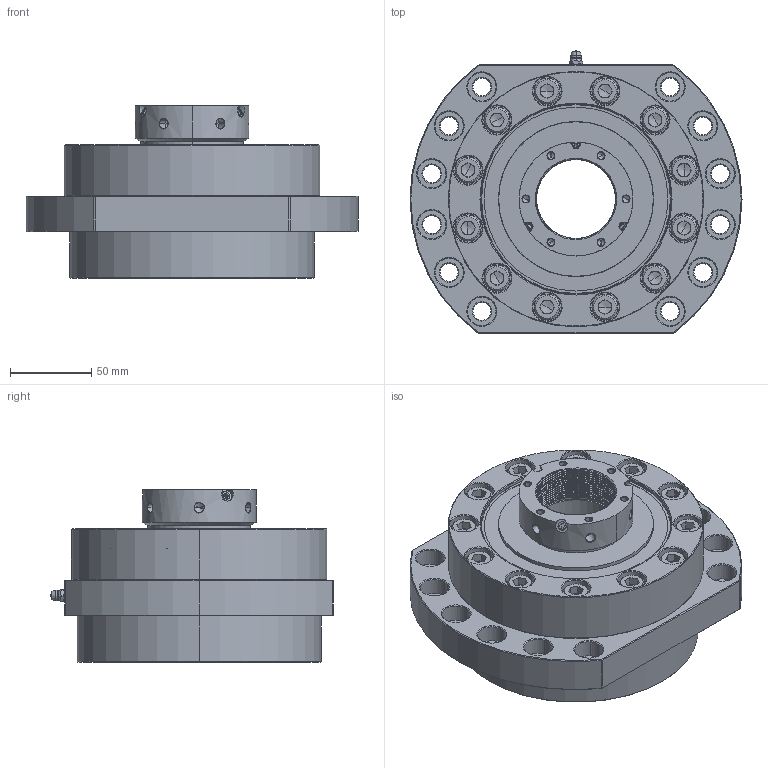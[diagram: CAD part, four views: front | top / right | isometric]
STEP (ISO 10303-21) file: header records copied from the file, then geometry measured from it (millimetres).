
FILE_DESCRIPTION (( 'STEP AP203' ), '1' );
FILE_NAME ('SRB50110.STEP', '2025-08-11T05:50:02', ( '' ), ( '' ), 'SwSTEP 2.0', 'SolidWorks 2025', '' );
FILE_SCHEMA (( 'CONFIG_CONTROL_DESIGN' ));
Length unit declared in the file: millimetre
Products named in the file (8): SRB50110_BEARING; 니플; SRB50110_BODY; SRB50110; HLRN50; M10-25(렌치볼트); SRB50110_OILSEAL; SRB50110_COVER
Assembly tree (19 placements, depth 2):
  SRB50110
    SRB50110_BODY
    SRB50110_BEARING
    SRB50110_COVER
    M10-25(렌치볼트)  x12
    니플
    HLRN50
    SRB50110_OILSEAL  x2
Bounding box: 204 x 173.83 x 106 mm (x, y, z)
Volume: 1540587.8 mm3; surface area: 286199.7 mm2
Topology: 19 solids, 19 shells, 1037 faces, 2435 edges, 1454 vertices
Faces by surface type: cone 370, cylinder 316, plane 274, bspline 61, torus 16
Entity records: 30152 total; most frequent: CARTESIAN_POINT 11930, DIRECTION 3583, ORIENTED_EDGE 3510, EDGE_CURVE 1755, AXIS2_PLACEMENT_3D 1467, VERTEX_POINT 1093, EDGE_LOOP 874, CIRCLE 761
